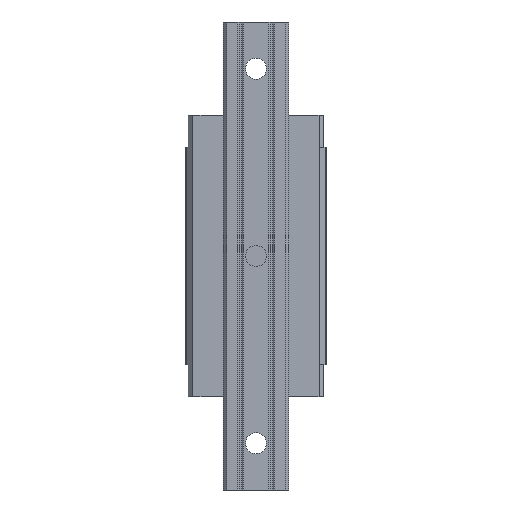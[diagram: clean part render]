
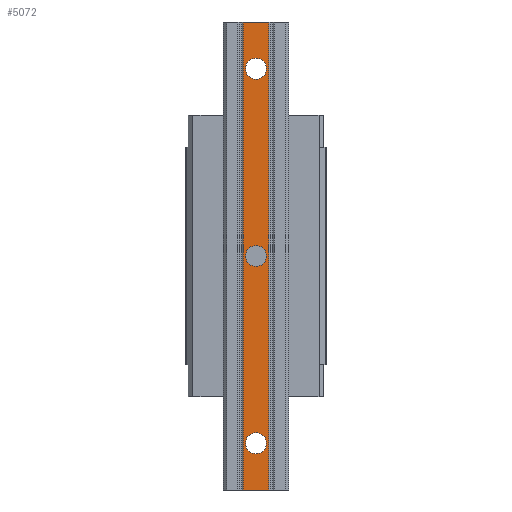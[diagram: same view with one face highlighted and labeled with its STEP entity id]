
A CAD part, front view. The second image highlights one B-rep face of the part: STEP entity #5072.
In plain terms, the highlighted planar face has unit normal (0, -1, 0).
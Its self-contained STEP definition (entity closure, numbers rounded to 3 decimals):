
#156 = CIRCLE ( 'NONE', #7350, 4.5 ) ;
#251 = VERTEX_POINT ( 'NONE', #2833 ) ;
#290 = LINE ( 'NONE', #917, #7008 ) ;
#450 = ORIENTED_EDGE ( 'NONE', *, *, #2148, .F. ) ;
#553 = DIRECTION ( 'NONE',  ( 0., 1., 0. ) ) ;
#598 = CIRCLE ( 'NONE', #4482, 4.5 ) ;
#621 = CARTESIAN_POINT ( 'NONE',  ( 0., -26., 80. ) ) ;
#775 = EDGE_LOOP ( 'NONE', ( #2526, #5713 ) ) ;
#875 = EDGE_CURVE ( 'NONE', #4868, #251, #3312, .T. ) ;
#917 = CARTESIAN_POINT ( 'NONE',  ( -5.55, -26., -100. ) ) ;
#928 = EDGE_CURVE ( 'NONE', #4433, #7029, #1692, .T. ) ;
#962 = FACE_BOUND ( 'NONE', #775, .T. ) ;
#1005 = AXIS2_PLACEMENT_3D ( 'NONE', #621, #3496, #5765 ) ;
#1028 = CARTESIAN_POINT ( 'NONE',  ( -4.5, -26., -80. ) ) ;
#1106 = CARTESIAN_POINT ( 'NONE',  ( 4.5, -26., 0. ) ) ;
#1220 = EDGE_CURVE ( 'NONE', #3897, #4868, #5436, .T. ) ;
#1229 = ORIENTED_EDGE ( 'NONE', *, *, #6311, .T. ) ;
#1276 = CIRCLE ( 'NONE', #7399, 4.5 ) ;
#1388 = VECTOR ( 'NONE', #1655, 1000. ) ;
#1428 = CARTESIAN_POINT ( 'NONE',  ( -5.55, -26., -100. ) ) ;
#1572 = EDGE_CURVE ( 'NONE', #5482, #5475, #1276, .T. ) ;
#1575 = AXIS2_PLACEMENT_3D ( 'NONE', #6805, #2134, #6769 ) ;
#1586 = DIRECTION ( 'NONE',  ( 0., 1., 0. ) ) ;
#1655 = DIRECTION ( 'NONE',  ( 1., 0., 0. ) ) ;
#1670 = CARTESIAN_POINT ( 'NONE',  ( 5.55, -26., -100. ) ) ;
#1692 = CIRCLE ( 'NONE', #1575, 4.5 ) ;
#1949 = CARTESIAN_POINT ( 'NONE',  ( 0., -26., -100. ) ) ;
#2057 = CIRCLE ( 'NONE', #5097, 4.5 ) ;
#2091 = ORIENTED_EDGE ( 'NONE', *, *, #4435, .T. ) ;
#2095 = DIRECTION ( 'NONE',  ( 0., 0., 1. ) ) ;
#2134 = DIRECTION ( 'NONE',  ( 0., 1., 0. ) ) ;
#2148 = EDGE_CURVE ( 'NONE', #2299, #251, #3898, .T. ) ;
#2203 = CARTESIAN_POINT ( 'NONE',  ( -4.5, -26., 0. ) ) ;
#2213 = FACE_OUTER_BOUND ( 'NONE', #7023, .T. ) ;
#2299 = VERTEX_POINT ( 'NONE', #4914 ) ;
#2526 = ORIENTED_EDGE ( 'NONE', *, *, #928, .T. ) ;
#2611 = CARTESIAN_POINT ( 'NONE',  ( 5.55, -26., -100. ) ) ;
#2806 = DIRECTION ( 'NONE',  ( -1., 0., 0. ) ) ;
#2833 = CARTESIAN_POINT ( 'NONE',  ( 5.55, -26., 100. ) ) ;
#2904 = CARTESIAN_POINT ( 'NONE',  ( 0., -26., 80. ) ) ;
#2911 = FACE_BOUND ( 'NONE', #5029, .T. ) ;
#2969 = DIRECTION ( 'NONE',  ( 0., 1., 0. ) ) ;
#3064 = CARTESIAN_POINT ( 'NONE',  ( -4.5, -26., 80. ) ) ;
#3209 = CARTESIAN_POINT ( 'NONE',  ( 0., -26., -80. ) ) ;
#3287 = EDGE_LOOP ( 'NONE', ( #2091, #1229 ) ) ;
#3312 = LINE ( 'NONE', #1670, #5983 ) ;
#3355 = EDGE_CURVE ( 'NONE', #7029, #4433, #598, .T. ) ;
#3433 = CARTESIAN_POINT ( 'NONE',  ( -5.55, -26., -100. ) ) ;
#3496 = DIRECTION ( 'NONE',  ( 0., 1., 0. ) ) ;
#3585 = ORIENTED_EDGE ( 'NONE', *, *, #1220, .T. ) ;
#3897 = VERTEX_POINT ( 'NONE', #1428 ) ;
#3898 = LINE ( 'NONE', #4449, #1388 ) ;
#4140 = EDGE_CURVE ( 'NONE', #2299, #3897, #290, .T. ) ;
#4321 = DIRECTION ( 'NONE',  ( 0., 1., 0. ) ) ;
#4359 = DIRECTION ( 'NONE',  ( 0., 0., -1. ) ) ;
#4433 = VERTEX_POINT ( 'NONE', #1028 ) ;
#4435 = EDGE_CURVE ( 'NONE', #7249, #5327, #6749, .T. ) ;
#4449 = CARTESIAN_POINT ( 'NONE',  ( 0., -26., 100. ) ) ;
#4482 = AXIS2_PLACEMENT_3D ( 'NONE', #3209, #4321, #7173 ) ;
#4573 = CARTESIAN_POINT ( 'NONE',  ( 0., -26., 0. ) ) ;
#4868 = VERTEX_POINT ( 'NONE', #2611 ) ;
#4891 = CARTESIAN_POINT ( 'NONE',  ( 0., -26., 0. ) ) ;
#4909 = ORIENTED_EDGE ( 'NONE', *, *, #7415, .T. ) ;
#4914 = CARTESIAN_POINT ( 'NONE',  ( -5.55, -26., 100. ) ) ;
#5029 = EDGE_LOOP ( 'NONE', ( #6385, #4909 ) ) ;
#5072 = ADVANCED_FACE ( 'NONE', ( #2911, #5331, #962, #2213 ), #7026, .T. ) ;
#5097 = AXIS2_PLACEMENT_3D ( 'NONE', #2904, #553, #7017 ) ;
#5314 = DIRECTION ( 'NONE',  ( -1., 0., 0. ) ) ;
#5327 = VERTEX_POINT ( 'NONE', #7291 ) ;
#5331 = FACE_BOUND ( 'NONE', #3287, .T. ) ;
#5436 = LINE ( 'NONE', #1949, #5913 ) ;
#5475 = VERTEX_POINT ( 'NONE', #1106 ) ;
#5482 = VERTEX_POINT ( 'NONE', #2203 ) ;
#5713 = ORIENTED_EDGE ( 'NONE', *, *, #3355, .T. ) ;
#5739 = DIRECTION ( 'NONE',  ( 0., -1., 0. ) ) ;
#5765 = DIRECTION ( 'NONE',  ( -1., 0., 0. ) ) ;
#5913 = VECTOR ( 'NONE', #6620, 1000. ) ;
#5983 = VECTOR ( 'NONE', #2095, 1000. ) ;
#6311 = EDGE_CURVE ( 'NONE', #5327, #7249, #2057, .T. ) ;
#6374 = ORIENTED_EDGE ( 'NONE', *, *, #4140, .T. ) ;
#6385 = ORIENTED_EDGE ( 'NONE', *, *, #1572, .T. ) ;
#6445 = CARTESIAN_POINT ( 'NONE',  ( 4.5, -26., -80. ) ) ;
#6620 = DIRECTION ( 'NONE',  ( 1., 0., 0. ) ) ;
#6749 = CIRCLE ( 'NONE', #1005, 4.5 ) ;
#6769 = DIRECTION ( 'NONE',  ( -1., 0., 0. ) ) ;
#6776 = ORIENTED_EDGE ( 'NONE', *, *, #875, .T. ) ;
#6805 = CARTESIAN_POINT ( 'NONE',  ( 0., -26., -80. ) ) ;
#6909 = AXIS2_PLACEMENT_3D ( 'NONE', #3433, #5739, #7061 ) ;
#7008 = VECTOR ( 'NONE', #4359, 1000. ) ;
#7017 = DIRECTION ( 'NONE',  ( -1., 0., 0. ) ) ;
#7023 = EDGE_LOOP ( 'NONE', ( #6776, #450, #6374, #3585 ) ) ;
#7026 = PLANE ( 'NONE',  #6909 ) ;
#7029 = VERTEX_POINT ( 'NONE', #6445 ) ;
#7061 = DIRECTION ( 'NONE',  ( 0., 0., -1. ) ) ;
#7173 = DIRECTION ( 'NONE',  ( -1., 0., 0. ) ) ;
#7249 = VERTEX_POINT ( 'NONE', #3064 ) ;
#7291 = CARTESIAN_POINT ( 'NONE',  ( 4.5, -26., 80. ) ) ;
#7350 = AXIS2_PLACEMENT_3D ( 'NONE', #4891, #2969, #5314 ) ;
#7399 = AXIS2_PLACEMENT_3D ( 'NONE', #4573, #1586, #2806 ) ;
#7415 = EDGE_CURVE ( 'NONE', #5475, #5482, #156, .T. ) ;
